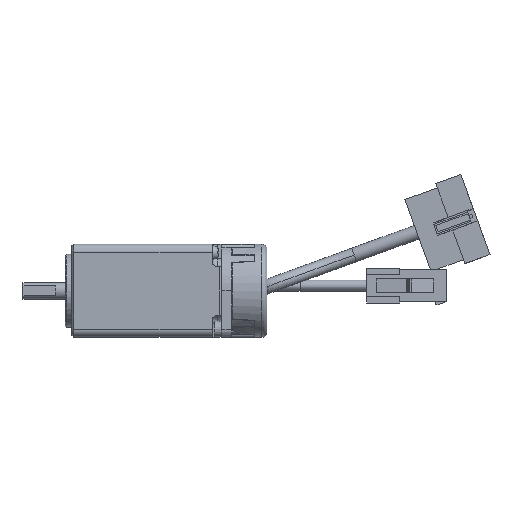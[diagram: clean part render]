
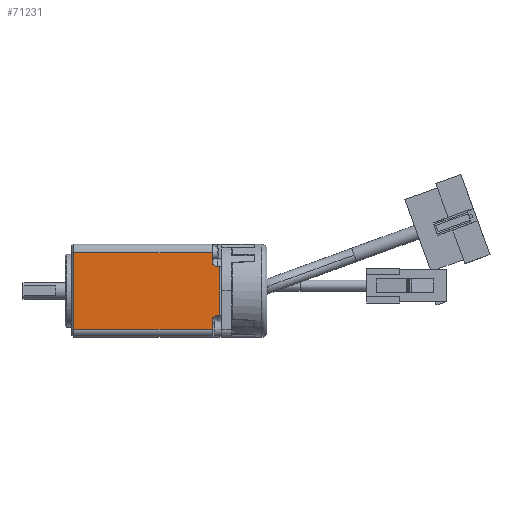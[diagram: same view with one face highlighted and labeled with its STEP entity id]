
A CAD part, front view. The second image highlights one B-rep face of the part: STEP entity #71231.
In plain terms, the highlighted planar face has unit normal (0, -1, 0).
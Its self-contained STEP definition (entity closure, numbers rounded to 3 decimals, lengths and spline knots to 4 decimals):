
#557=PLANE('',#75192);
#4116=LINE('',#100334,#13531);
#4118=LINE('',#100346,#13533);
#4119=LINE('',#100347,#13534);
#4120=LINE('',#100349,#13535);
#4121=LINE('',#100353,#13536);
#4122=LINE('',#100355,#13537);
#4123=LINE('',#100357,#13538);
#4124=LINE('',#100360,#13539);
#13531=VECTOR('',#80856,1.6417);
#13533=VECTOR('',#80870,1.6417);
#13534=VECTOR('',#80871,0.9055);
#13535=VECTOR('',#80872,0.1024);
#13536=VECTOR('',#80875,0.0315);
#13537=VECTOR('',#80876,0.5787);
#13538=VECTOR('',#80877,0.0315);
#13539=VECTOR('',#80880,0.1063);
#22927=FACE_OUTER_BOUND('',#26748,.T.);
#26748=EDGE_LOOP('',(#50536,#50537,#50538,#50539,#50540,#50541,#50542,#50543,
#50544,#50545));
#30685=CIRCLE('',#75193,0.0591);
#30686=CIRCLE('',#75194,0.0591);
#31993=VERTEX_POINT('',#100332);
#31994=VERTEX_POINT('',#100333);
#31997=VERTEX_POINT('',#100344);
#31998=VERTEX_POINT('',#100345);
#31999=VERTEX_POINT('',#100348);
#32000=VERTEX_POINT('',#100350);
#32001=VERTEX_POINT('',#100352);
#32002=VERTEX_POINT('',#100354);
#32003=VERTEX_POINT('',#100356);
#32004=VERTEX_POINT('',#100358);
#39269=EDGE_CURVE('',#31993,#31994,#4116,.T.);
#39275=EDGE_CURVE('',#31997,#31998,#4118,.T.);
#39276=EDGE_CURVE('',#31997,#31993,#4119,.T.);
#39277=EDGE_CURVE('',#31994,#31999,#4120,.T.);
#39278=EDGE_CURVE('',#31999,#32000,#30685,.T.);
#39279=EDGE_CURVE('',#32000,#32001,#4121,.T.);
#39280=EDGE_CURVE('',#32001,#32002,#4122,.T.);
#39281=EDGE_CURVE('',#32002,#32003,#4123,.T.);
#39282=EDGE_CURVE('',#32003,#32004,#30686,.T.);
#39283=EDGE_CURVE('',#31998,#32004,#4124,.T.);
#50536=ORIENTED_EDGE('',*,*,#39275,.F.);
#50537=ORIENTED_EDGE('',*,*,#39276,.T.);
#50538=ORIENTED_EDGE('',*,*,#39269,.T.);
#50539=ORIENTED_EDGE('',*,*,#39277,.T.);
#50540=ORIENTED_EDGE('',*,*,#39278,.T.);
#50541=ORIENTED_EDGE('',*,*,#39279,.T.);
#50542=ORIENTED_EDGE('',*,*,#39280,.T.);
#50543=ORIENTED_EDGE('',*,*,#39281,.T.);
#50544=ORIENTED_EDGE('',*,*,#39282,.T.);
#50545=ORIENTED_EDGE('',*,*,#39283,.F.);
#71231=ADVANCED_FACE('',(#22927),#557,.T.);
#75192=AXIS2_PLACEMENT_3D('',#100343,#80868,#80869);
#75193=AXIS2_PLACEMENT_3D('',#100351,#80873,#80874);
#75194=AXIS2_PLACEMENT_3D('',#100359,#80878,#80879);
#80856=DIRECTION('',(1.,0.,0.));
#80868=DIRECTION('center_axis',(0.,-1.,0.));
#80869=DIRECTION('ref_axis',(-1.,0.,0.));
#80870=DIRECTION('',(1.,0.,0.));
#80871=DIRECTION('',(0.,0.,-1.));
#80872=DIRECTION('',(0.,0.,1.));
#80873=DIRECTION('center_axis',(0.,1.,0.));
#80874=DIRECTION('ref_axis',(0.,0.,
1.));
#80875=DIRECTION('',(1.,0.,0.));
#80876=DIRECTION('',(0.,0.,1.));
#80877=DIRECTION('',(-1.,0.,0.));
#80878=DIRECTION('center_axis',(0.,1.,0.));
#80879=DIRECTION('ref_axis',(1.,0.,0.));
#80880=DIRECTION('',(0.,0.,-1.));
#100332=CARTESIAN_POINT('',(-1.4516,0.,0.0984));
#100333=CARTESIAN_POINT('',(0.1902,0.,0.0984));
#100334=CARTESIAN_POINT('',(0.2807,0.,0.0984));
#100343=CARTESIAN_POINT('Origin',(0.2807,0.,
0.0984));
#100344=CARTESIAN_POINT('',(-1.4516,0.,1.0039));
#100345=CARTESIAN_POINT('',(0.1902,0.,1.0039));
#100346=CARTESIAN_POINT('',(0.1902,0.,1.0039));
#100347=CARTESIAN_POINT('',(-1.4516,0.,0.0984));
#100348=CARTESIAN_POINT('',(0.1902,0.,0.2008));
#100349=CARTESIAN_POINT('',(0.1902,0.,0.0984));
#100350=CARTESIAN_POINT('',(0.2492,0.,0.2598));
#100351=CARTESIAN_POINT('Origin',(0.2492,0.,
0.2008));
#100352=CARTESIAN_POINT('',(0.2807,0.,0.2598));
#100353=CARTESIAN_POINT('',(0.2807,0.,0.2598));
#100354=CARTESIAN_POINT('',(0.2807,0.,0.8386));
#100355=CARTESIAN_POINT('',(0.2807,0.,0.0984));
#100356=CARTESIAN_POINT('',(0.2492,0.,0.8386));
#100357=CARTESIAN_POINT('',(0.2807,0.,0.8386));
#100358=CARTESIAN_POINT('',(0.1902,0.,0.8976));
#100359=CARTESIAN_POINT('Origin',(0.2492,0.,
0.8976));
#100360=CARTESIAN_POINT('',(0.1902,0.,0.8976));
